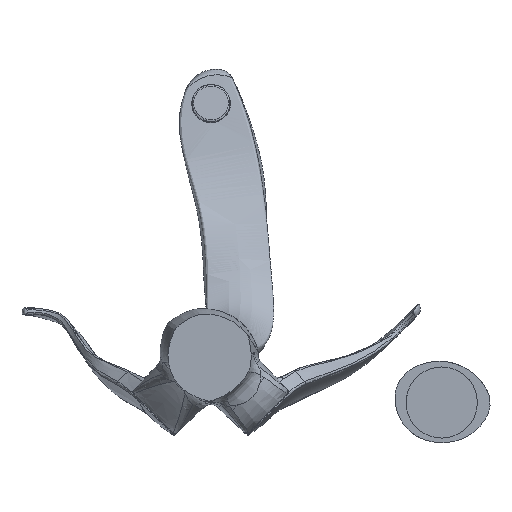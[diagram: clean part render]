
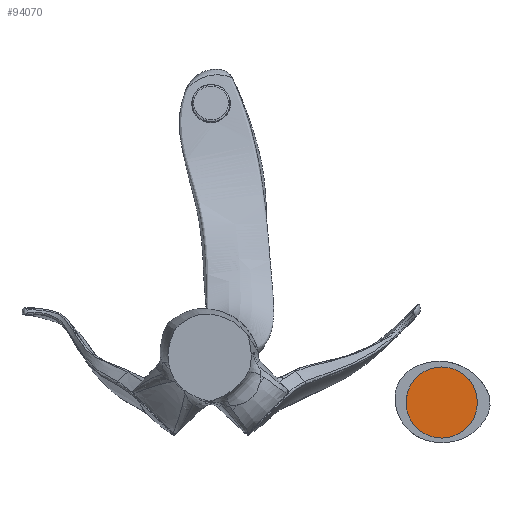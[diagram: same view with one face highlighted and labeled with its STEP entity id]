
A CAD part, front view. The second image highlights one B-rep face of the part: STEP entity #94070.
In plain terms, the highlighted planar face has unit normal (0, -1, 0).
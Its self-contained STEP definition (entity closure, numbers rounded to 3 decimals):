
#14394 = CARTESIAN_POINT ( 'NONE',  ( 166.071, 0.7, -32.851 ) ) ;
#26366 = DIRECTION ( 'NONE',  ( -0.002, 0., -1. ) ) ;
#31424 = VERTEX_POINT ( 'NONE', #153123 ) ;
#35721 = CIRCLE ( 'NONE', #123429, 25.5 ) ;
#37297 = DIRECTION ( 'NONE',  ( 0., -1., 0. ) ) ;
#46414 = FACE_OUTER_BOUND ( 'NONE', #90095, .T. ) ;
#71592 = AXIS2_PLACEMENT_3D ( 'NONE', #108676, #37297, #120533 ) ;
#90095 = EDGE_LOOP ( 'NONE', ( #112403 ) ) ;
#94070 = ADVANCED_FACE ( 'NONE', ( #46414 ), #143759, .T. ) ;
#97817 = DIRECTION ( 'NONE',  ( 0., 1., 0. ) ) ;
#108676 = CARTESIAN_POINT ( 'NONE',  ( 166.071, 0.7, -32.851 ) ) ;
#112403 = ORIENTED_EDGE ( 'NONE', *, *, #146393, .F. ) ;
#120533 = DIRECTION ( 'NONE',  ( 0.709, 0., 0.706 ) ) ;
#123429 = AXIS2_PLACEMENT_3D ( 'NONE', #14394, #97817, #26366 ) ;
#143759 = PLANE ( 'NONE',  #71592 ) ;
#146393 = EDGE_CURVE ( 'NONE', #31424, #31424, #35721, .T. ) ;
#153123 = CARTESIAN_POINT ( 'NONE',  ( 166.013, 0.7, -58.351 ) ) ;
